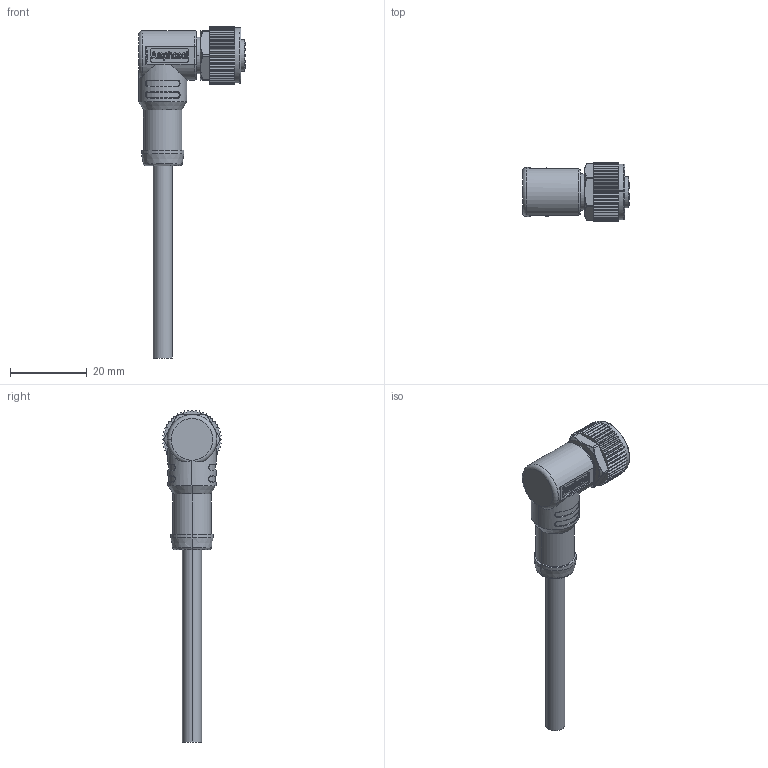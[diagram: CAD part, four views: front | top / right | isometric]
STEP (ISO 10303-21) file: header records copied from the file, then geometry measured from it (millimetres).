
FILE_DESCRIPTION((''),'2;1');
FILE_NAME('MSAP-06BFFM-SR8AXX_SW0001','2016-12-02T',('ks7709'),(''),'PRO/ENGINEER BY PARAMETRIC TECHNOLOGY CORPORATION, 2013050','PRO/ENGINEER BY PARAMETRIC TECHNOLOGY CORPORATION, 2013050','');
FILE_SCHEMA(('CONFIG_CONTROL_DESIGN'));
Length unit declared in the file: millimetre
Products named in the file (1): MSAP-06BFFM-SR8AXX_SW0001
Bounding box: 27.7 x 15.3 x 86.25 mm (x, y, z)
Volume: 6540.7 mm3; surface area: 4310.7 mm2
Topology: 1 solids, 1 shells, 850 faces, 2206 edges, 1433 vertices
Faces by surface type: plane 433, cylinder 160, extrusion 101, bspline 74, cone 36, torus 32, sphere 14
Entity records: 51308 total; most frequent: CARTESIAN_POINT 24901, ORIENTED_EDGE 4412, DIRECTION 3758, EDGE_CURVE 2206, VERTEX_POINT 1433, VECTOR 1370, LINE 1269, AXIS2_PLACEMENT_3D 1194
